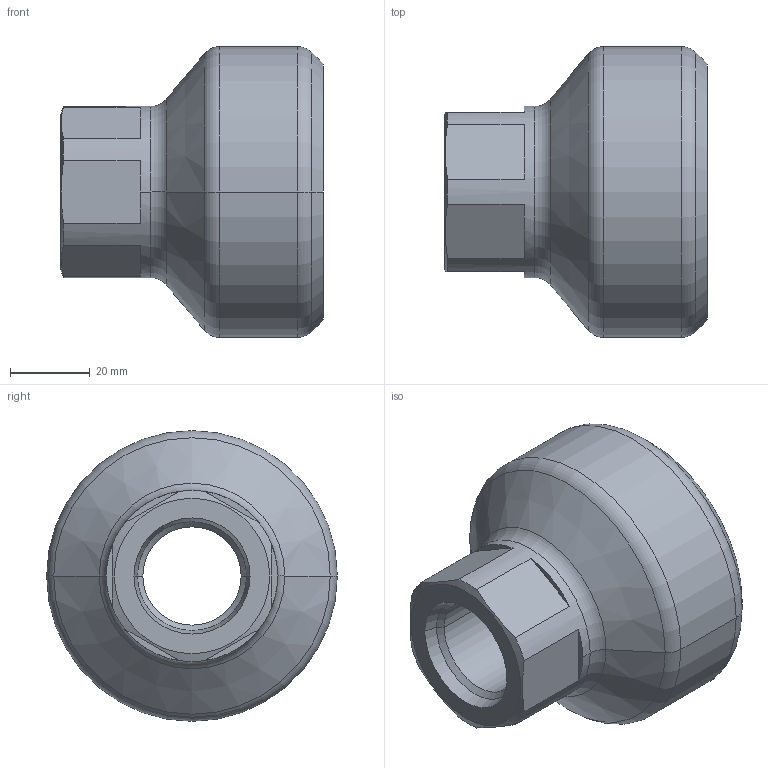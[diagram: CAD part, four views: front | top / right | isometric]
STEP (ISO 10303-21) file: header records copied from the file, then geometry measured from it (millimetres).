
FILE_DESCRIPTION((''),'2;1');
FILE_NAME('47010809','2025-11-14T10:34:22',('p.max'),(''),'CREO PARAMETRIC BY PTC INC, 2023254','CREO PARAMETRIC BY PTC INC, 2023254','');
FILE_SCHEMA(('AUTOMOTIVE_DESIGN { 1 0 10303 214 1 1 1 1 }'));
Length unit declared in the file: millimetre
Products named in the file (1): 47010809
Bounding box: 66 x 73 x 73 mm (x, y, z)
Volume: 81521 mm3; surface area: 24631.5 mm2
Topology: 1 solids, 1 shells, 52 faces, 118 edges, 70 vertices
Faces by surface type: cone 18, plane 16, cylinder 10, torus 8
Entity records: 1946 total; most frequent: CARTESIAN_POINT 292, DIRECTION 278, ORIENTED_EDGE 236, PRESENTATION_STYLE_ASSIGNMENT 119, STYLED_ITEM 119, CURVE_STYLE 118, EDGE_CURVE 118, AXIS2_PLACEMENT_3D 116
